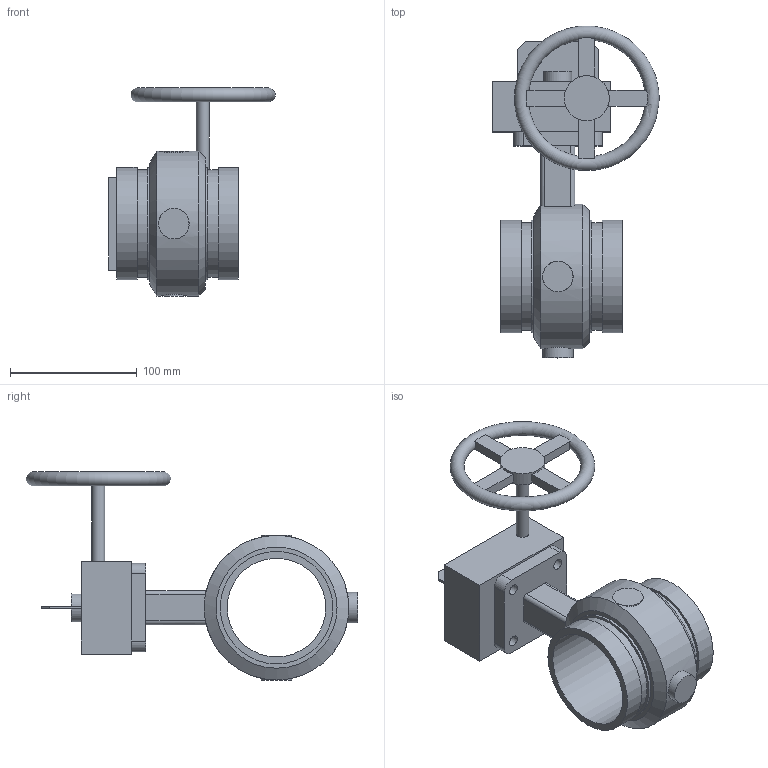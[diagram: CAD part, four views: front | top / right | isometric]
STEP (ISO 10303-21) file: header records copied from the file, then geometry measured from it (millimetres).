
FILE_DESCRIPTION(/* description */ ('VIC FP VALVE BUTTERFLY HP SERIES 766 (OGS)'),/* implementation_level */ '2;1');
FILE_NAME(/* name */ 'C:\Files for Export\766\Victaulic_EU_FP_Vlv Btfl HP_Series 766 (OGS)\Victaulic_EU_FP_Vlv Btfl HP_Series 766 (OGS)_3 (80).stp',/* time_stamp */ '2024-06-27T12:46:28+02:00',/* author */ ('cps_temp'),/* organization */ ('Victaulic'),/* preprocessor_version */ 'ST-DEVELOPER v18.1',/* originating_system */ 'Autodesk Inventor 2020',/* authorisation */ '');
FILE_SCHEMA (('AUTOMOTIVE_DESIGN { 1 0 10303 214 3 1 1 }'));
Length unit declared in the file: inch
Products named in the file (1): 766-03.0
Bounding box: 131.32 x 262.07 x 164.34 mm (x, y, z)
Volume: 711618.7 mm3; surface area: 128930.6 mm2
Topology: 1 solids, 2 shells, 93 faces, 239 edges, 162 vertices
Faces by surface type: plane 59, cylinder 31, cone 2, torus 1
Full cylindrical faces by diameter (mm): 8.128 x1, 8.636 x4, 10.16 x1, 24.13 x1, 35.56 x1, 55.118 x1, 77.927 x1, 84.938 x2, 88.9 x4, 114.3 x1
Entity records: 3299 total; most frequent: CARTESIAN_POINT 780, DIRECTION 499, ORIENTED_EDGE 478, EDGE_CURVE 239, AXIS2_PLACEMENT_3D 193, VERTEX_POINT 162, EDGE_LOOP 117, LINE 113
